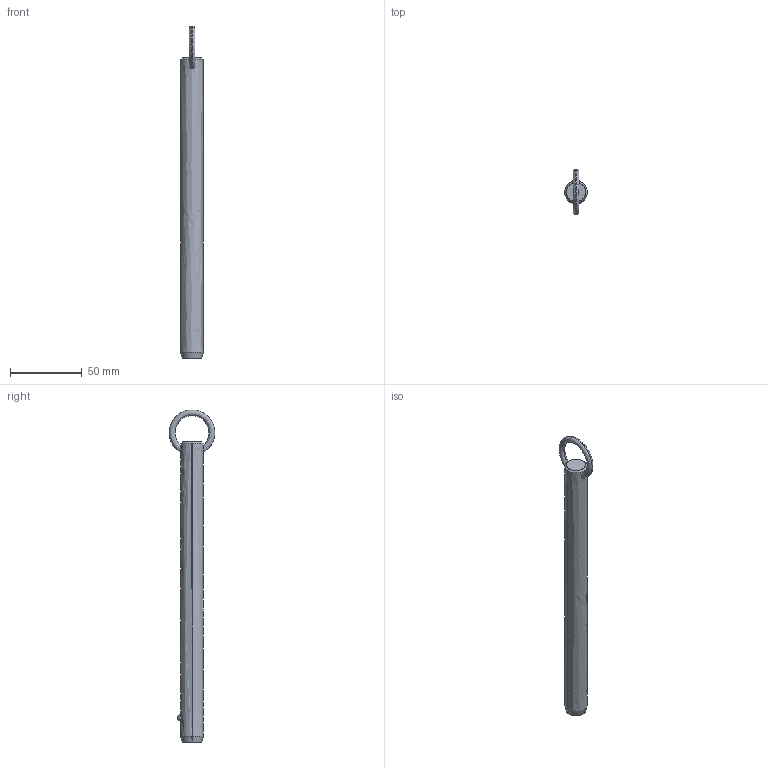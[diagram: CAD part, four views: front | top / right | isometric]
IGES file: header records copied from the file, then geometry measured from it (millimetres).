
Start section: SolidWorks IGES file using analytic representation for surfaces
Global section: file name: C:\Users\liam_\OneDrive\Documents\WORK\Work for WixRoyd\Job Files\J-00019 - Matt Davis CAD Checking\04. CAD Drawings\automotion20190605\P1250.2_v2\P1250.2_v2_20190729_IGES\P1250.062-710.igs; native system: SolidWorks 2017; preprocessor: SolidWorks 2017; author: liam_; date: 190729.234412; units: millimetre
Bounding box: 15.8 x 31.7 x 230.98 mm (x, y, z)
Surface area: 11538.1 mm2 (no closed solid volume)
Topology: 0 solids, 0 shells, 12 faces, 292 edges, 290 vertices
Faces by surface type: revolution 8, bspline 4
